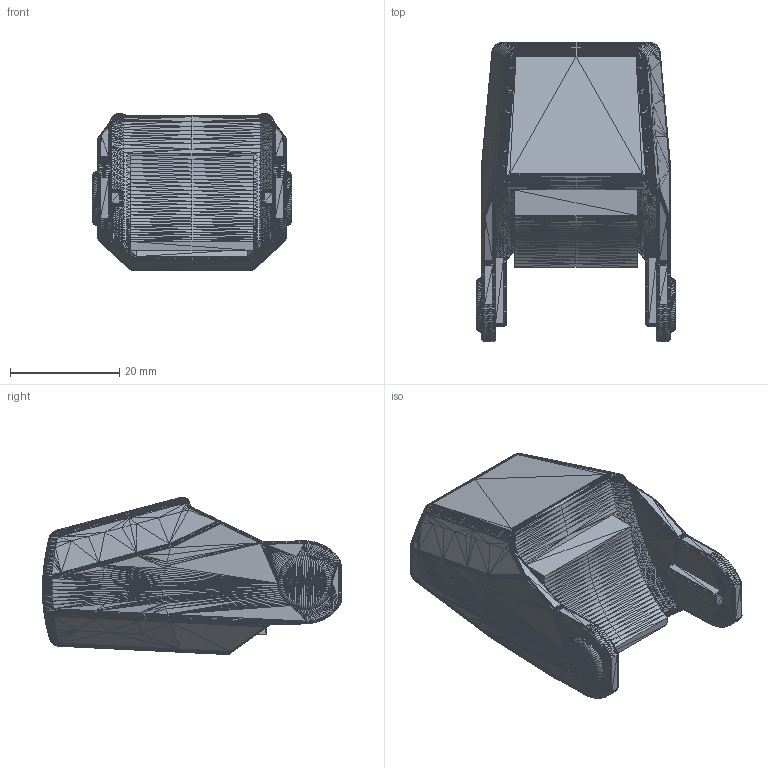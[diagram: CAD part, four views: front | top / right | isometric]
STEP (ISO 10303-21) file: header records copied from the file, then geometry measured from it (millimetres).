
FILE_DESCRIPTION((''),'2;1');
FILE_NAME('Index Finger P3', '2025-03-27T07:46:02', (''), (''), 'ImageToStl.com STEP Converter','', '');
FILE_SCHEMA(('AUTOMOTIVE_DESIGN_CC2'));
Length unit declared in the file: metre
Products named in the file (1): product0
Bounding box: 36.5 x 54.78 x 28.78 mm (x, y, z)
Surface area: 6791.8 mm2 (no closed solid volume)
Topology: 0 solids, 19484 shells, 19484 faces, 58452 edges, 9744 vertices
Faces by surface type: plane 19484
Entity records: 467655 total; most frequent: DIRECTION 97422, ORIENTED_EDGE 58452, EDGE_CURVE 58452, LINE 58452, VECTOR 58452, AXIS2_PLACEMENT_3D 19485, STYLED_ITEM 19485, FACE_SURFACE 19484
